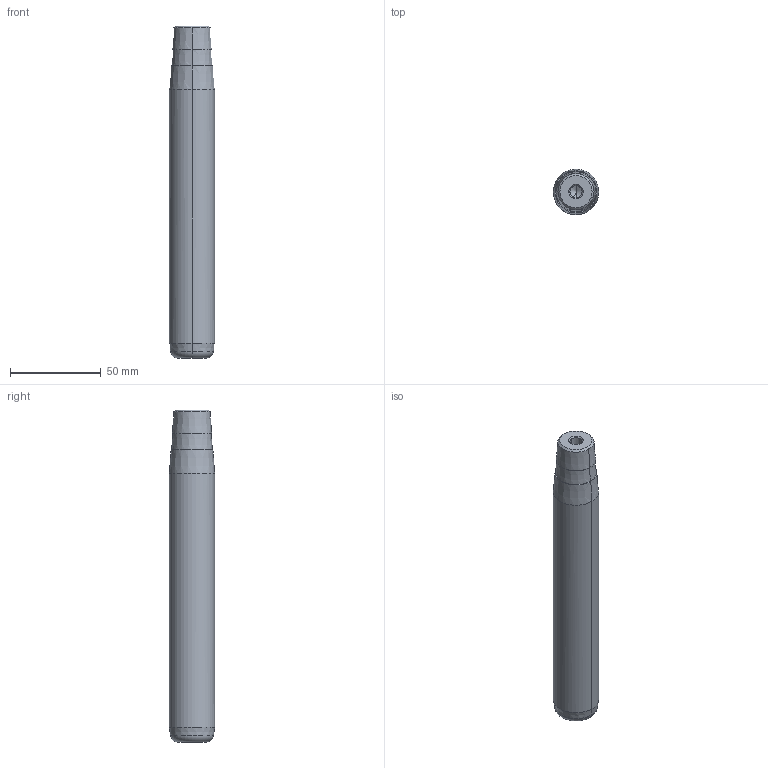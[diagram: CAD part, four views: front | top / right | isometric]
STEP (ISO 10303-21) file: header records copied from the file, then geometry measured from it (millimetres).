
FILE_DESCRIPTION(('CATIA V5 STEP Exchange'),'2;1');
FILE_NAME('C:\Users\Utente\Desktop\IO LAVORO\3D X SITO CF\X SITO\722\722-25x160x183.stp','2021-01-09T08:05:16+00:00',('none'),('none'),'CATIA Version 5 Release 20 GA (IN-10)','CATIA V5 STEP AP203','none');
FILE_SCHEMA(('CONFIG_CONTROL_DESIGN'));
Length unit declared in the file: millimetre
Products named in the file (1): 722-25x160x183
Bounding box: 25 x 25 x 183 mm (x, y, z)
Volume: 83889.6 mm3; surface area: 15759.3 mm2
Topology: 1 solids, 1 shells, 32 faces, 98 edges, 66 vertices
Faces by surface type: cone 22, cylinder 6, plane 2, torus 2
Entity records: 1166 total; most frequent: CARTESIAN_POINT 279, ORIENTED_EDGE 188, DIRECTION 148, EDGE_CURVE 94, AXIS2_PLACEMENT_3D 89, VERTEX_POINT 66, CIRCLE 56, EDGE_LOOP 34
